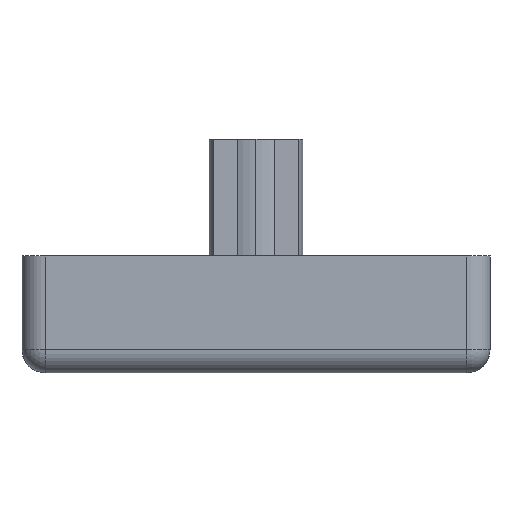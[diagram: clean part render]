
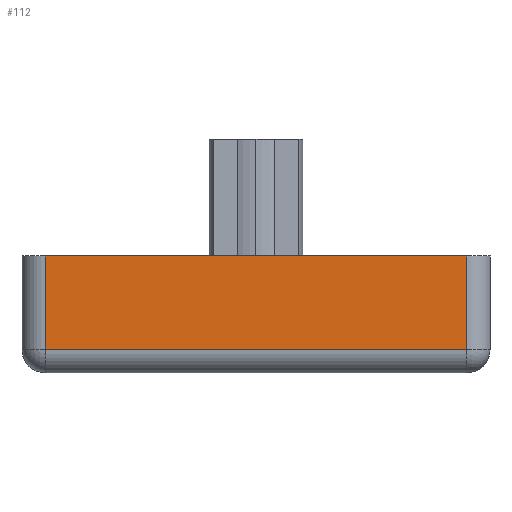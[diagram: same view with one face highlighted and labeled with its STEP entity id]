
A CAD part, left-side view. The second image highlights one B-rep face of the part: STEP entity #112.
In plain terms, the highlighted planar face has unit normal (-1, 0, 0).
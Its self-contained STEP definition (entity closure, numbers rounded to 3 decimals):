
#28 = VERTEX_POINT ( 'NONE', #1476 ) ;
#32 = DIRECTION ( 'NONE',  ( 0., 0., -1. ) ) ;
#45 = LINE ( 'NONE', #1157, #1342 ) ;
#98 = LINE ( 'NONE', #1571, #1354 ) ;
#112 = ADVANCED_FACE ( 'NONE', ( #827 ), #625, .F. ) ;
#125 = CARTESIAN_POINT ( 'NONE',  ( -20., -9., 1. ) ) ;
#144 = CARTESIAN_POINT ( 'NONE',  ( -20., -9., 5. ) ) ;
#173 = CARTESIAN_POINT ( 'NONE',  ( -20., -9., 5. ) ) ;
#368 = ORIENTED_EDGE ( 'NONE', *, *, #457, .T. ) ;
#409 = EDGE_LOOP ( 'NONE', ( #368, #881, #1460, #1549 ) ) ;
#457 = EDGE_CURVE ( 'NONE', #1193, #482, #98, .T. ) ;
#482 = VERTEX_POINT ( 'NONE', #125 ) ;
#514 = LINE ( 'NONE', #173, #755 ) ;
#541 = DIRECTION ( 'NONE',  ( 0., 0., 1. ) ) ;
#625 = PLANE ( 'NONE',  #1577 ) ;
#750 = DIRECTION ( 'NONE',  ( 1., 0., 0. ) ) ;
#755 = VECTOR ( 'NONE', #541, 1000. ) ;
#782 = EDGE_CURVE ( 'NONE', #482, #877, #514, .T. ) ;
#808 = DIRECTION ( 'NONE',  ( 0., -1., 0. ) ) ;
#827 = FACE_OUTER_BOUND ( 'NONE', #409, .T. ) ;
#877 = VERTEX_POINT ( 'NONE', #144 ) ;
#879 = LINE ( 'NONE', #1136, #1496 ) ;
#881 = ORIENTED_EDGE ( 'NONE', *, *, #782, .T. ) ;
#1022 = CARTESIAN_POINT ( 'NONE',  ( -20., 9., 1. ) ) ;
#1084 = DIRECTION ( 'NONE',  ( 0., 0., -1. ) ) ;
#1136 = CARTESIAN_POINT ( 'NONE',  ( -20., -10., 5. ) ) ;
#1157 = CARTESIAN_POINT ( 'NONE',  ( -20., 9., 5. ) ) ;
#1193 = VERTEX_POINT ( 'NONE', #1022 ) ;
#1201 = EDGE_CURVE ( 'NONE', #28, #1193, #45, .T. ) ;
#1256 = DIRECTION ( 'NONE',  ( 0., -1., 0. ) ) ;
#1342 = VECTOR ( 'NONE', #1084, 1000. ) ;
#1354 = VECTOR ( 'NONE', #808, 1000. ) ;
#1460 = ORIENTED_EDGE ( 'NONE', *, *, #1492, .F. ) ;
#1476 = CARTESIAN_POINT ( 'NONE',  ( -20., 9., 5. ) ) ;
#1492 = EDGE_CURVE ( 'NONE', #28, #877, #879, .T. ) ;
#1493 = CARTESIAN_POINT ( 'NONE',  ( -20., -10., 5. ) ) ;
#1496 = VECTOR ( 'NONE', #1256, 1000. ) ;
#1549 = ORIENTED_EDGE ( 'NONE', *, *, #1201, .T. ) ;
#1571 = CARTESIAN_POINT ( 'NONE',  ( -20., -10., 1. ) ) ;
#1577 = AXIS2_PLACEMENT_3D ( 'NONE', #1493, #750, #32 ) ;
